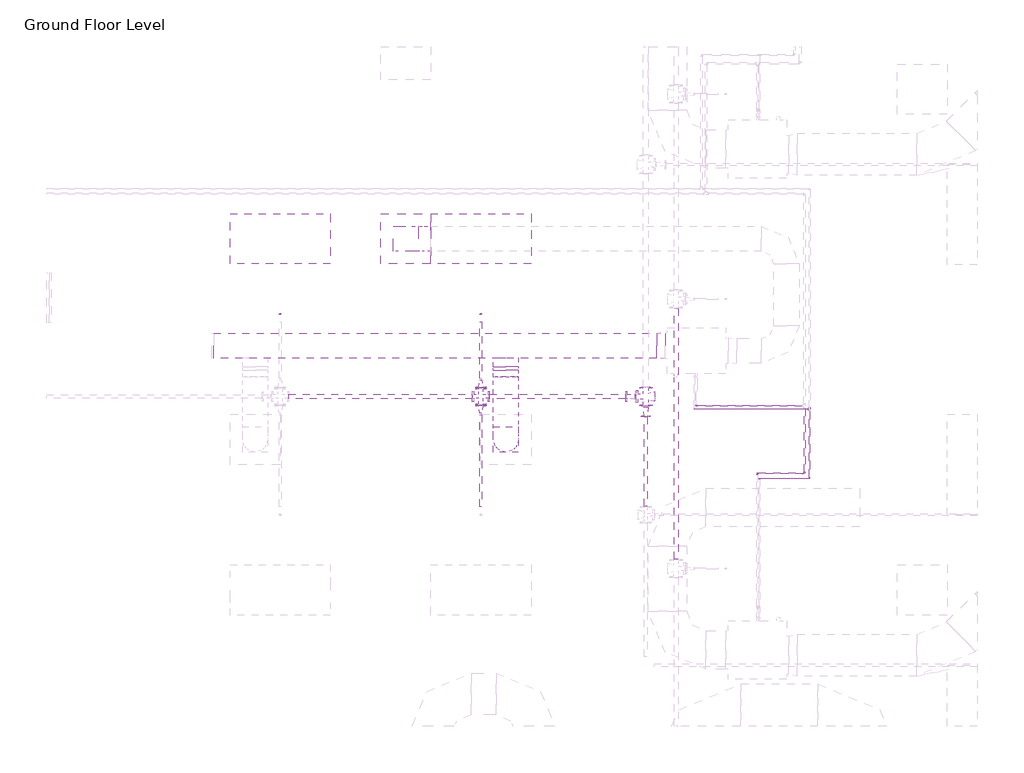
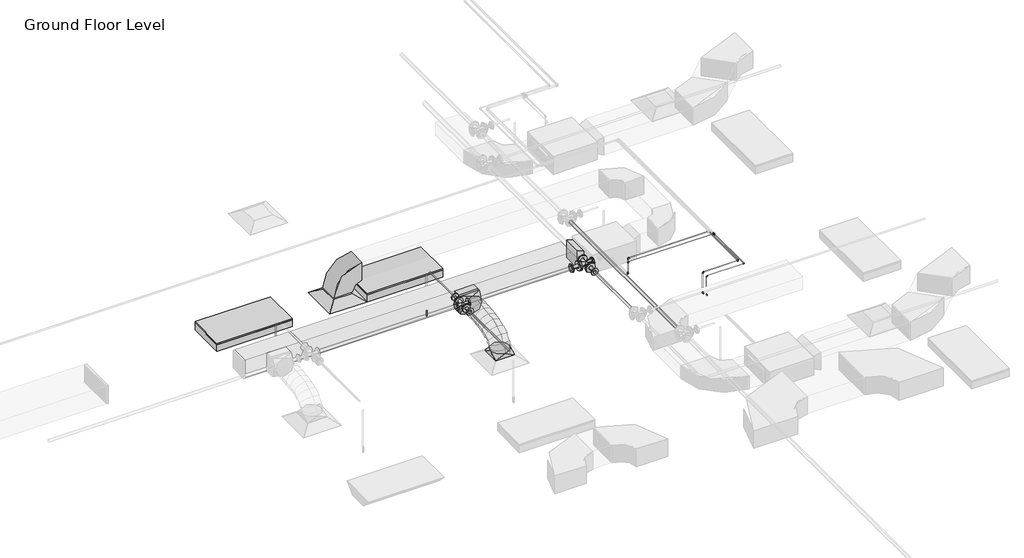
# One storey, part 35 of 74: 18 pipe fittings, 18 pipe segments, 5 duct fittings, 4 duct segments, 2 fire suppression terminals, 2 light fixtures, 1 air terminal.
"""IFC4 building model written with IfcOpenShell, lengths in millimetres."""

from ifc_helpers import new_model, si_unit, point, frame, frame_2d, origin, place, context, project, spatial, polyline, circle_curve, ellipse_curve, trimmed, segment, composite_curve, outline, extrude, transform, mapped, element, save
from ifc_brep_helpers import plane_surface, cylinder_surface, advanced_brep
from components import m_return_diffuser_600_x_600_face_300_x_300_connection_ff221211, m_rectangular_elbow_radius_1_w_618da153, m_rectangular_takeoff_standard_cb0ccb98, m_rectangular_transition_angle_45_degree_da897c11, m_rectangular_to_round_transition_angle_45_degree_641efff0, m_sprinkler_dry_pendent_hosted_15_mm_dry_pendent_9bda8e11, m_troffer_light_parabolic_rectangular1_0600x1200mm_4_lamp_86473d4a, m_cross_flanged_cs_class_150_standard_fc817054, m_elbow_generic_standard_a088f956, m_elbow_generic_standard_2a704253, m_reducer_flanged_cs_class_150_standard_3ab32b2b, m_reducer_flanged_cs_class_150_standard_a7631c35, m_reducer_flanged_cs_class_150_standard_dc68ad9d, m_tee_generic_standard_5b2ed4d4, m_tee_round_base_flanged_cs_class_150_standard_dd767e04, m_transition_generic_standard_bdcfe2c1

model = new_model("IFC4")

# Units and contexts
model_context = context("Model", 3, world=origin())
ifc_project = project(units=[si_unit("LENGTHUNIT", "METRE", prefix="MILLI")], contexts=[model_context])

# Site, building, storey
site = spatial("IfcSite", under=ifc_project)
building = spatial("IfcBuilding", under=site)
storey = spatial("IfcBuildingStorey", under=building, Name="Ground Floor Level", Elevation=900.0)

# Air terminal
placement = place(None, origin())
m_return_diffuser_600_x_600_face_300_x_300_connection_shape = m_return_diffuser_600_x_600_face_300_x_300_connection_ff221211(model_context)
element("IfcAirTerminal", 1, ObjectType="M_Return Diffuser : 600 x 600 Face 300 x 300 Connection", at=placement, inside=storey, context=model_context, shape_type="MappedRepresentation", body=[
    mapped(m_return_diffuser_600_x_600_face_300_x_300_connection_shape, transform((2762.7672395, -1064.7846466, 3650.0), x_axis=(1.0, 0.0, 0.0), y_axis=(0.0, 1.0, 0.0), z_axis=(0.0, 0.0, 1.0))),
])

# Duct fittings
m_rectangular_elbow_radius_1_w_shape = m_rectangular_elbow_radius_1_w_618da153(model_context)
element("IfcDuctFitting", 2, ObjectType="M_Rectangular Elbow - Radius : 1 W", at=placement, inside=storey, context=model_context, shape_type="MappedRepresentation", body=[
    mapped(m_rectangular_elbow_radius_1_w_shape, transform((2762.7672395, -1064.7846466, 4075.2874667), x_axis=(0.0, 0.0, 1.0), y_axis=(1.0, 0.0, 0.0), z_axis=(0.0, 1.0, 0.0))),
])
m_rectangular_takeoff_standard_shape = m_rectangular_takeoff_standard_cb0ccb98(model_context)
element("IfcDuctFitting", 3, ObjectType="M_Rectangular Takeoff : Standard", at=placement, inside=storey, context=model_context, shape_type="MappedRepresentation", body=[
    mapped(m_rectangular_takeoff_standard_shape, transform((3962.7672395, -2491.7438478, 4099.9957364), x_axis=(0.0, -1.0, 0.0), y_axis=(-1.0, 0.0, 0.0), z_axis=(0.0, 0.0, -1.0))),
])
m_rectangular_transition_angle_45_degree_shape = m_rectangular_transition_angle_45_degree_da897c11(model_context)
element("IfcDuctFitting", 4, ObjectType="M_Rectangular Transition - Angle : 45 Degree", at=placement, inside=storey, context=model_context, shape_type="MappedRepresentation", body=[
    mapped(m_rectangular_transition_angle_45_degree_shape, transform((5868.0139492, -2341.7438478, 4099.9999667), x_axis=(-1.0, 0.0, 0.0), y_axis=(0.0, -1.0, 0.0), z_axis=(0.0, 0.0, 1.0))),
])
m_rectangular_to_round_transition_angle_45_degree_shape = m_rectangular_to_round_transition_angle_45_degree_641efff0(model_context)
element("IfcDuctFitting", 5, ObjectType="M_Rectangular to Round Transition - Angle : 45 Degree", at=placement, inside=storey, context=model_context, shape_type="MappedRepresentation", body=[
    mapped(m_rectangular_to_round_transition_angle_45_degree_shape, transform((3962.7672395, -3464.7846466, 3751.6), x_axis=(0.0, 0.0, 1.0), y_axis=(-1.0, 0.0, 0.0), z_axis=(0.0, -1.0, 0.0))),
])
element("IfcDuctFitting", 6, ObjectType="M_Rectangular to Round Transition - Angle : 45 Degree", at=placement, inside=storey, context=model_context, shape_type="MappedRepresentation", body=[
    mapped(m_rectangular_to_round_transition_angle_45_degree_shape, transform((3962.7672395, -2637.4444518, 4099.9957364), x_axis=(0.0, -1.0, 0.0), y_axis=(1.0, 0.0, 0.0), z_axis=(0.0, 0.0, 1.0))),
])

# Duct segments
element("IfcDuctSegment", 7, ObjectType="Flex - Round", at=placement, inside=storey, context=model_context, shape_type="AdvancedBrep", body=[
    advanced_brep(
    [(4112.7672395, -3464.7846466, 3826.6), (3962.7672395, -3614.7846466, 3826.6), (3812.7672395, -3464.7846466, 3826.6), (3962.7672395, -3314.7846466, 3826.6), (4112.7672395, -3464.7846466, 3857.9378904), (3962.7672395, -3614.7846466, 3883.5813314), (3812.7672395, -3464.7846466, 3857.9378904), (3962.7672395, -3314.7846466, 3832.2944494), (4112.7672395, -3447.7685958, 3906.2506506), (3962.7672395, -3581.5063062, 3978.066738), (3812.7672395, -3447.7685958, 3906.2506506), (3962.7672395, -3314.0308854, 3834.4345631), (4112.7672395, -3400.5843936, 3968.711118), (3962.7672395, -3504.7895631, 4079.6211441), (3812.7672395, -3400.5843936, 3968.711118), (3962.7672395, -3296.3792241, 3857.8010918), (4112.7672395, -3329.0279651, 4016.0693364), (3962.7672395, -3397.9608708, 4150.3236185), (3812.7672395, -3329.0279651, 4016.0693364), (3962.7672395, -3260.0950595, 3881.8150544), (4112.7672395, -3238.8952355, 4050.4132402), (3962.7672395, -3282.4547417, 4194.3357259), (3812.7672395, -3238.8952355, 4050.4132402), (3962.7672395, -3195.3357294, 3906.4907544), (4112.7672395, -3135.98213, 4073.8307635), (3962.7672395, -3162.5418624, 4221.6214893), (3812.7672395, -3135.98213, 4073.8307635), (3962.7672395, -3109.4223976, 3926.0400376), (4112.7672395, -3026.0845737, 4088.4098405), (3962.7672395, -3041.2344403, 4237.7142061), (3812.7672395, -3026.0845737, 4088.4098405), (3962.7672395, -3010.934707, 3939.1054749), (4112.7672395, -2914.9984918, 4096.2384055), (3962.7672395, -2922.5030142, 4246.0815611), (3812.7672395, -2914.9984918, 4096.2384055), (3962.7672395, -2907.4939693, 3946.3952499), (4112.7672395, -2808.5198094, 4099.4043927), (3962.7672395, -2811.210829, 4249.3906708), (3812.7672395, -2808.5198094, 4099.4043927), (3962.7672395, -2805.8287898, 3949.4181147), (4112.7672395, -2712.4444518, 4099.9957364), (3962.7672395, -2711.5212194, 3949.9985777), (3812.7672395, -2712.4444518, 4099.9957364), (3962.7672395, -2713.3676841, 4249.9928952)],
    [
        (0, 1, circle_curve(frame((3962.7672395, -3464.7846466, 3826.6), z_axis=(0.0, 0.0, -1.0), x_axis=(1.0, 0.0, 0.0)), 150.0)),
        (1, 2, circle_curve(frame((3962.7672395, -3464.7846466, 3826.6), z_axis=(0.0, 0.0, -1.0), x_axis=(1.0, 0.0, 0.0)), 150.0)),
        (2, 3, circle_curve(frame((3962.7672395, -3464.7846466, 3826.6), z_axis=(0.0, 0.0, -1.0), x_axis=(1.0, 0.0, 0.0)), 150.0)),
        (3, 0, circle_curve(frame((3962.7672395, -3464.7846466, 3826.6), z_axis=(0.0, 0.0, -1.0), x_axis=(1.0, 0.0, 0.0)), 150.0)),
        (0, 4),
        (4, 5, ellipse_curve(frame((3962.7672395, -3464.7846466, 3857.9378904), z_axis=(0.0, -0.1685115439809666, -0.9856996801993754), x_axis=(0.0, 0.9856996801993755, -0.1685115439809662)), 152.1761679, 150.0)),
        (5, 1),
        (5, 6, ellipse_curve(frame((3962.7672395, -3464.7846466, 3857.9378904), z_axis=(0.0, -0.1685115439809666, -0.9856996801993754), x_axis=(0.0, 0.9856996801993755, -0.1685115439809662)), 152.1761679, 150.0)),
        (6, 2),
        (6, 7, ellipse_curve(frame((3962.7672395, -3464.7846466, 3857.9378904), z_axis=(0.0, -0.1685115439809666, -0.9856996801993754), x_axis=(0.0, 0.9856996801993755, -0.1685115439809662)), 152.1761679, 150.0)),
        (7, 3),
        (7, 4, ellipse_curve(frame((3962.7672395, -3464.7846466, 3857.9378904), z_axis=(0.0, -0.1685115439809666, -0.9856996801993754), x_axis=(0.0, 0.9856996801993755, -0.1685115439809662)), 152.1761679, 150.0)),
        (4, 8),
        (8, 9, ellipse_curve(frame((3962.7672395, -3447.7685958, 3906.2506506), z_axis=(0.0, -0.4730958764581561, -0.8810109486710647), x_axis=(0.0, 0.8810109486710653, -0.4730958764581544)), 151.800282, 150.0)),
        (9, 5),
        (9, 10, ellipse_curve(frame((3962.7672395, -3447.7685958, 3906.2506506), z_axis=(0.0, -0.4730958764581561, -0.8810109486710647), x_axis=(0.0, 0.8810109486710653, -0.4730958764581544)), 151.800282, 150.0)),
        (10, 6),
        (10, 11, ellipse_curve(frame((3962.7672395, -3447.7685958, 3906.2506506), z_axis=(0.0, -0.4730958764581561, -0.8810109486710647), x_axis=(0.0, 0.8810109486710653, -0.4730958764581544)), 151.800282, 150.0)),
        (11, 7),
        (11, 8, ellipse_curve(frame((3962.7672395, -3447.7685958, 3906.2506506), z_axis=(0.0, -0.4730958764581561, -0.8810109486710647), x_axis=(0.0, 0.8810109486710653, -0.4730958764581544)), 151.800282, 150.0)),
        (8, 12),
        (12, 13, ellipse_curve(frame((3962.7672395, -3400.5843936, 3968.711118), z_axis=(0.0, -0.7287924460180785, -0.6847346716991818), x_axis=(0.0, 0.6847346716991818, -0.7287924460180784)), 152.1832818, 150.0)),
        (13, 9),
        (13, 14, ellipse_curve(frame((3962.7672395, -3400.5843936, 3968.711118), z_axis=(0.0, -0.7287924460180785, -0.6847346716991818), x_axis=(0.0, 0.6847346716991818, -0.7287924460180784)), 152.1832818, 150.0)),
        (14, 10),
        (14, 15, ellipse_curve(frame((3962.7672395, -3400.5843936, 3968.711118), z_axis=(0.0, -0.7287924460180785, -0.6847346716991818), x_axis=(0.0, 0.6847346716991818, -0.7287924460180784)), 152.1832818, 150.0)),
        (15, 11),
        (15, 12, ellipse_curve(frame((3962.7672395, -3400.5843936, 3968.711118), z_axis=(0.0, -0.7287924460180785, -0.6847346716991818), x_axis=(0.0, 0.6847346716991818, -0.7287924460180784)), 152.1832818, 150.0)),
        (12, 16),
        (16, 17, ellipse_curve(frame((3962.7672395, -3329.0279651, 4016.0693364), z_axis=(0.0, -0.8895898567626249, -0.45676020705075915), x_axis=(0.0, 0.45676020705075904, -0.889589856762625)), 150.9170558, 150.0)),
        (17, 13),
        (17, 18, ellipse_curve(frame((3962.7672395, -3329.0279651, 4016.0693364), z_axis=(0.0, -0.8895898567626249, -0.45676020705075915), x_axis=(0.0, 0.45676020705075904, -0.889589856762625)), 150.9170558, 150.0)),
        (18, 14),
        (18, 19, ellipse_curve(frame((3962.7672395, -3329.0279651, 4016.0693364), z_axis=(0.0, -0.8895898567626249, -0.45676020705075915), x_axis=(0.0, 0.45676020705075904, -0.889589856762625)), 150.9170558, 150.0)),
        (19, 15),
        (19, 16, ellipse_curve(frame((3962.7672395, -3329.0279651, 4016.0693364), z_axis=(0.0, -0.8895898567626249, -0.45676020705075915), x_axis=(0.0, 0.45676020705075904, -0.889589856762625)), 150.9170558, 150.0)),
        (16, 20),
        (20, 21, ellipse_curve(frame((3962.7672395, -3238.8952355, 4050.4132402), z_axis=(0.0, -0.9571228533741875, -0.2896823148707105), x_axis=(0.0, 0.28968231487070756, -0.9571228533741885)), 150.3699188, 150.0)),
        (21, 17),
        (21, 22, ellipse_curve(frame((3962.7672395, -3238.8952355, 4050.4132402), z_axis=(0.0, -0.9571228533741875, -0.2896823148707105), x_axis=(0.0, 0.28968231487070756, -0.9571228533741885)), 150.3699188, 150.0)),
        (22, 18),
        (22, 23, ellipse_curve(frame((3962.7672395, -3238.8952355, 4050.4132402), z_axis=(0.0, -0.9571228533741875, -0.2896823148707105), x_axis=(0.0, 0.28968231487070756, -0.9571228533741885)), 150.3699188, 150.0)),
        (23, 19),
        (23, 20, ellipse_curve(frame((3962.7672395, -3238.8952355, 4050.4132402), z_axis=(0.0, -0.9571228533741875, -0.2896823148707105), x_axis=(0.0, 0.28968231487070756, -0.9571228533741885)), 150.3699188, 150.0)),
        (20, 24),
        (24, 25, ellipse_curve(frame((3962.7672395, -3135.98213, 4073.8307635), z_axis=(0.0, -0.984232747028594, -0.1768782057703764), x_axis=(0.0, 0.17687820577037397, -0.9842327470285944)), 150.1583099, 150.0)),
        (25, 21),
        (25, 26, ellipse_curve(frame((3962.7672395, -3135.98213, 4073.8307635), z_axis=(0.0, -0.984232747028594, -0.1768782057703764), x_axis=(0.0, 0.17687820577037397, -0.9842327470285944)), 150.1583099, 150.0)),
        (26, 22),
        (26, 27, ellipse_curve(frame((3962.7672395, -3135.98213, 4073.8307635), z_axis=(0.0, -0.984232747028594, -0.1768782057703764), x_axis=(0.0, 0.17687820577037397, -0.9842327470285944)), 150.1583099, 150.0)),
        (27, 23),
        (27, 24, ellipse_curve(frame((3962.7672395, -3135.98213, 4073.8307635), z_axis=(0.0, -0.984232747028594, -0.1768782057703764), x_axis=(0.0, 0.17687820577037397, -0.9842327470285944)), 150.1583099, 150.0)),
        (24, 28),
        (28, 29, ellipse_curve(frame((3962.7672395, -3026.0845737, 4088.4098405), z_axis=(0.0, -0.9948913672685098, -0.10095131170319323), x_axis=(0.0, 0.10095131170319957, -0.994891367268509)), 150.0710233, 150.0)),
        (29, 25),
        (29, 30, ellipse_curve(frame((3962.7672395, -3026.0845737, 4088.4098405), z_axis=(0.0, -0.9948913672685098, -0.10095131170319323), x_axis=(0.0, 0.10095131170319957, -0.994891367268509)), 150.0710233, 150.0)),
        (30, 26),
        (30, 31, ellipse_curve(frame((3962.7672395, -3026.0845737, 4088.4098405), z_axis=(0.0, -0.9948913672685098, -0.10095131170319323), x_axis=(0.0, 0.10095131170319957, -0.994891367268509)), 150.0710233, 150.0)),
        (31, 27),
        (31, 28, ellipse_curve(frame((3962.7672395, -3026.0845737, 4088.4098405), z_axis=(0.0, -0.9948913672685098, -0.10095131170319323), x_axis=(0.0, 0.10095131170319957, -0.994891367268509)), 150.0710233, 150.0)),
        (28, 32),
        (32, 33, ellipse_curve(frame((3962.7672395, -2914.9984918, 4096.2384055), z_axis=(0.0, -0.9987482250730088, -0.050019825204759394), x_axis=(0.0, 0.05001982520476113, -0.9987482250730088)), 150.0309606, 150.0)),
        (33, 29),
        (33, 34, ellipse_curve(frame((3962.7672395, -2914.9984918, 4096.2384055), z_axis=(0.0, -0.9987482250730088, -0.050019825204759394), x_axis=(0.0, 0.05001982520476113, -0.9987482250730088)), 150.0309606, 150.0)),
        (34, 30),
        (34, 35, ellipse_curve(frame((3962.7672395, -2914.9984918, 4096.2384055), z_axis=(0.0, -0.9987482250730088, -0.050019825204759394), x_axis=(0.0, 0.05001982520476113, -0.9987482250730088)), 150.0309606, 150.0)),
        (35, 31),
        (35, 32, ellipse_curve(frame((3962.7672395, -2914.9984918, 4096.2384055), z_axis=(0.0, -0.9987482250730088, -0.050019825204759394), x_axis=(0.0, 0.05001982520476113, -0.9987482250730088)), 150.0309606, 150.0)),
        (32, 36),
        (36, 37, ellipse_curve(frame((3962.7672395, -2808.5198094, 4099.4043927), z_axis=(0.0, -0.9998390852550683, -0.01793888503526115), x_axis=(0.0, 0.017938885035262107, -0.9998390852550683)), 150.0104169, 150.0)),
        (37, 33),
        (37, 38, ellipse_curve(frame((3962.7672395, -2808.5198094, 4099.4043927), z_axis=(0.0, -0.9998390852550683, -0.01793888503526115), x_axis=(0.0, 0.017938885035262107, -0.9998390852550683)), 150.0104169, 150.0)),
        (38, 34),
        (38, 39, ellipse_curve(frame((3962.7672395, -2808.5198094, 4099.4043927), z_axis=(0.0, -0.9998390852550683, -0.01793888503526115), x_axis=(0.0, 0.017938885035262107, -0.9998390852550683)), 150.0104169, 150.0)),
        (39, 35),
        (39, 36, ellipse_curve(frame((3962.7672395, -2808.5198094, 4099.4043927), z_axis=(0.0, -0.9998390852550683, -0.01793888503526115), x_axis=(0.0, 0.017938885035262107, -0.9998390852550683)), 150.0104169, 150.0)),
        (40, 41, circle_curve(frame((3962.7672395, -2712.4444518, 4099.9957364), z_axis=(0.0, 0.9999810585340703, 0.006154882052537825), x_axis=(1.0, 0.0, 0.0)), 150.0)),
        (41, 42, circle_curve(frame((3962.7672395, -2712.4444518, 4099.9957364), z_axis=(0.0, 0.9999810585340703, 0.006154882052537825), x_axis=(1.0, 0.0, 0.0)), 150.0)),
        (42, 43, circle_curve(frame((3962.7672395, -2712.4444518, 4099.9957364), z_axis=(0.0, 0.9999810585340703, 0.006154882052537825), x_axis=(1.0, 0.0, 0.0)), 150.0)),
        (43, 40, circle_curve(frame((3962.7672395, -2712.4444518, 4099.9957364), z_axis=(0.0, 0.9999810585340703, 0.006154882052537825), x_axis=(1.0, 0.0, 0.0)), 150.0)),
        (36, 40),
        (43, 37),
        (42, 38),
        (41, 39),
    ],
    [
        plane_surface(frame((3962.7672395, -3614.7846466, 3826.6), z_axis=(0.0, 0.0, -1.0), x_axis=(1.0, 0.0, 0.0))),
        cylinder_surface(frame((3962.7672395, -3464.7846466, 3826.6), z_axis=(0.0, 0.0, -1.0), x_axis=(1.0, 0.0, 0.0)), 150.0),
        cylinder_surface(frame((3962.7672395, -3464.7846466, 3857.9378904), z_axis=(0.0, -0.3322035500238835, -0.9432077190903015), x_axis=(1.0, 0.0, 0.0)), 150.0),
        cylinder_surface(frame((3962.7672395, -3447.7685958, 3906.2506506), z_axis=(0.0, -0.6027668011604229, -0.7979174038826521), x_axis=(1.0, 0.0, 0.0)), 150.0),
        cylinder_surface(frame((3962.7672395, -3400.5843936, 3968.711118), z_axis=(0.0, -0.8339069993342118, -0.5519049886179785), x_axis=(1.0, 0.0, 0.0)), 150.0),
        cylinder_surface(frame((3962.7672395, -3329.0279651, 4016.0693364), z_axis=(0.0, -0.9344614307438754, -0.35606436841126), x_axis=(1.0, 0.0, 0.0)), 150.0),
        cylinder_surface(frame((3962.7672395, -3238.8952355, 4050.4132402), z_axis=(0.0, -0.9750751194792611, -0.22187499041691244), x_axis=(1.0, 0.0, 0.0)), 150.0),
        cylinder_surface(frame((3962.7672395, -3135.98213, 4073.8307635), z_axis=(0.0, -0.9913150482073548, -0.1315084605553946), x_axis=(1.0, 0.0, 0.0)), 150.0),
        cylinder_surface(frame((3962.7672395, -3026.0845737, 4088.4098405), z_axis=(0.0, -0.9975259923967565, -0.07029860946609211), x_axis=(1.0, 0.0, 0.0)), 150.0),
        cylinder_surface(frame((3962.7672395, -2914.9984918, 4096.2384055), z_axis=(0.0, -0.9995582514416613, -0.029720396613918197), x_axis=(1.0, 0.0, 0.0)), 150.0),
        plane_surface(frame((3962.7672395, -2713.3676841, 4249.9928952), z_axis=(0.0, 0.9999810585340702, 0.006154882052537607), x_axis=(1.0, 0.0, 0.0))),
        cylinder_surface(frame((3962.7672395, -2808.5198094, 4099.4043927), z_axis=(0.0, -0.9999810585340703, -0.006154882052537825), x_axis=(1.0, 0.0, 0.0)), 150.0),
    ],
    [
        (0, [[1, 2, 3, 4]]),
        (1, [[-1, 5, 6, 7]]),
        (1, [[-2, -7, 8, 9]]),
        (1, [[-3, -9, 10, 11]]),
        (1, [[-4, -11, 12, -5]]),
        (2, [[-6, 13, 14, 15]]),
        (2, [[-8, -15, 16, 17]]),
        (2, [[-10, -17, 18, 19]]),
        (2, [[-12, -19, 20, -13]]),
        (3, [[-14, 21, 22, 23]]),
        (3, [[-16, -23, 24, 25]]),
        (3, [[-18, -25, 26, 27]]),
        (3, [[-20, -27, 28, -21]]),
        (4, [[-22, 29, 30, 31]]),
        (4, [[-24, -31, 32, 33]]),
        (4, [[-26, -33, 34, 35]]),
        (4, [[-28, -35, 36, -29]]),
        (5, [[-30, 37, 38, 39]]),
        (5, [[-32, -39, 40, 41]]),
        (5, [[-34, -41, 42, 43]]),
        (5, [[-36, -43, 44, -37]]),
        (6, [[-38, 45, 46, 47]]),
        (6, [[-40, -47, 48, 49]]),
        (6, [[-42, -49, 50, 51]]),
        (6, [[-44, -51, 52, -45]]),
        (7, [[-46, 53, 54, 55]]),
        (7, [[-48, -55, 56, 57]]),
        (7, [[-50, -57, 58, 59]]),
        (7, [[-52, -59, 60, -53]]),
        (8, [[-54, 61, 62, 63]]),
        (8, [[-56, -63, 64, 65]]),
        (8, [[-58, -65, 66, 67]]),
        (8, [[-60, -67, 68, -61]]),
        (9, [[-62, 69, 70, 71]]),
        (9, [[-64, -71, 72, 73]]),
        (9, [[-66, -73, 74, 75]]),
        (9, [[-68, -75, 76, -69]]),
        (10, [[77, 78, 79, 80]]),
        (11, [[-70, 81, -80, 82]]),
        (11, [[-72, -82, -79, 83]]),
        (11, [[-74, -83, -78, 84]]),
        (11, [[-76, -84, -77, -81]]),
    ],
),
])
element("IfcDuctSegment", 8, ObjectType="Radius Elbows / Taps", at=placement, inside=storey, context=model_context, shape_type="SweptSolid", body=[
    extrude(outline(polyline([(2912.7672395, -914.7846466), (2912.7672395, -1214.7846466), (2612.7672395, -1214.7846466), (2612.7672395, -914.7846466), (2912.7672395, -914.7846466)])), frame((0.0, 0.0, 3751.6), z_axis=(0.0, 0.0, 1.0), x_axis=(1.0, 0.0, 0.0)), (0.0, 0.0, 1.0), 23.6874667),
])
element("IfcDuctSegment", 9, ObjectType="Radius Elbows / Taps", at=placement, inside=storey, context=model_context, shape_type="SweptSolid", body=[
    extrude(outline(polyline([(0.0, -300.0), (0.0, 0.0), (5296.5207712, 0.0), (5296.5207712, -300.0), (0.0, -300.0)])), frame((5764.5350754, -2491.7438478, 3950.0), z_axis=(-2.366321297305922e-06, 0.0, 0.9999999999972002), x_axis=(-0.9999999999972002, 0.0, -2.366321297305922e-06)), (0.0, 0.0, 1.0), 300.0),
])
element("IfcDuctSegment", 10, ObjectType="Radius Elbows / Taps", at=placement, inside=storey, context=model_context, shape_type="SweptSolid", body=[
    extrude(outline(polyline([(3812.7672395, -2593.3438478), (4112.7672395, -2593.3438478), (4112.7672395, -2637.4444518), (3812.7672395, -2637.4444518), (3812.7672395, -2593.3438478)])), frame((0.0, 0.0, 3949.9957364), z_axis=(0.0, 0.0, 1.0), x_axis=(1.0, 0.0, 0.0)), (0.0, 0.0, 1.0), 300.0),
])

# Fire suppression terminals
m_sprinkler_dry_pendent_hosted_15_mm_dry_pendent_shape = m_sprinkler_dry_pendent_hosted_15_mm_dry_pendent_9bda8e11(model_context)
element("IfcFireSuppressionTerminal", 11, ObjectType="M_Sprinkler - Dry - Pendent - Hosted : 15 mm Dry Pendent", at=placement, inside=storey, context=model_context, shape_type="MappedRepresentation", body=[
    mapped(m_sprinkler_dry_pendent_hosted_15_mm_dry_pendent_shape, transform((1262.7672395, -1964.7846466, 3650.0), x_axis=(1.0, 0.0, 0.0), y_axis=(0.0, -1.0, 0.0), z_axis=(0.0, 0.0, -1.0))),
])
element("IfcFireSuppressionTerminal", 12, ObjectType="M_Sprinkler - Dry - Pendent - Hosted : 15 mm Dry Pendent", at=placement, inside=storey, context=model_context, shape_type="MappedRepresentation", body=[
    mapped(m_sprinkler_dry_pendent_hosted_15_mm_dry_pendent_shape, transform((3662.7672395, -1964.7846466, 3650.0), x_axis=(1.0, 0.0, 0.0), y_axis=(0.0, -1.0, 0.0), z_axis=(0.0, 0.0, -1.0))),
])

# Light fixtures
m_troffer_light_parabolic_rectangular1_0600x1200mm_4_lamp_shape = m_troffer_light_parabolic_rectangular1_0600x1200mm_4_lamp_86473d4a(model_context)
element("IfcLightFixture", 13, ObjectType="M_Troffer Light - Parabolic Rectangular1 : 0600x1200mm(4 Lamp) - 277V 2", at=placement, inside=storey, context=model_context, shape_type="MappedRepresentation", body=[
    mapped(m_troffer_light_parabolic_rectangular1_0600x1200mm_4_lamp_shape, transform((3681.4707411, -1005.3187145, 3650.0), x_axis=(1.0, 0.0, 0.0), y_axis=(0.0, 1.0, 0.0), z_axis=(0.0, 0.0, 1.0))),
])
element("IfcLightFixture", 14, ObjectType="M_Troffer Light - Parabolic Rectangular1 : 0600x1200mm(4 Lamp) - 277V 2", at=placement, inside=storey, context=model_context, shape_type="MappedRepresentation", body=[
    mapped(m_troffer_light_parabolic_rectangular1_0600x1200mm_4_lamp_shape, transform((1281.4707411, -1005.3187145, 3650.0), x_axis=(1.0, 0.0, 0.0), y_axis=(0.0, 1.0, 0.0), z_axis=(0.0, 0.0, 1.0))),
])

# Pipe fittings
m_cross_flanged_cs_class_150_standard_shape = m_cross_flanged_cs_class_150_standard_fc817054(model_context)
element("IfcPipeFitting", 15, ObjectType="M_Cross - Flanged - CS - Class 150 : Standard", at=placement, inside=storey, context=model_context, shape_type="MappedRepresentation", body=[
    mapped(m_cross_flanged_cs_class_150_standard_shape, transform((3662.7672395, -2950.3491993, 4360.0), x_axis=(1.0, 0.0, 0.0), y_axis=(0.0, -1.0, 0.0), z_axis=(0.0, 0.0, -1.0))),
])
m_elbow_generic_standard_shape = m_elbow_generic_standard_a088f956(model_context)
element("IfcPipeFitting", 16, ObjectType="M_Elbow - Generic : Standard", at=placement, inside=storey, context=model_context, shape_type="MappedRepresentation", body=[
    mapped(m_elbow_generic_standard_shape, transform((7534.4307053, -3869.9099051, 4300.0), x_axis=(1.0, 0.0, 0.0), y_axis=(0.0, 1.0, 0.0), z_axis=(0.0, 0.0, 1.0))),
])
element("IfcPipeFitting", 17, ObjectType="M_Elbow - Generic : Standard", at=placement, inside=storey, context=model_context, shape_type="MappedRepresentation", body=[
    mapped(m_elbow_generic_standard_shape, transform((6968.8139492, -3869.9099051, 4300.0), x_axis=(-1.0, 0.0, 0.0), y_axis=(0.0, 0.0, -1.0), z_axis=(0.0, -1.0, 0.0))),
])
element("IfcPipeFitting", 18, ObjectType="M_Elbow - Generic : Standard", at=placement, inside=storey, context=model_context, shape_type="MappedRepresentation", body=[
    mapped(m_elbow_generic_standard_shape, transform((6243.4139492, -3060.5124002, 4034.0874667), x_axis=(0.0, -1.0, 0.0), y_axis=(0.0, 0.0, 1.0), z_axis=(-1.0, 0.0, 0.0))),
])
element("IfcPipeFitting", 19, ObjectType="M_Elbow - Generic : Standard", at=placement, inside=storey, context=model_context, shape_type="MappedRepresentation", body=[
    mapped(m_elbow_generic_standard_shape, transform((6243.4139492, -3060.5124002, 4300.0), x_axis=(0.0, 0.0, 1.0), y_axis=(1.0, 0.0, 0.0), z_axis=(0.0, 1.0, 0.0))),
])
element("IfcPipeFitting", 20, ObjectType="M_Elbow - Generic : Standard", at=placement, inside=storey, context=model_context, shape_type="MappedRepresentation", body=[
    mapped(m_elbow_generic_standard_shape, transform((6968.8139492, -3869.9099051, 3950.0), x_axis=(0.0, 0.0, -1.0), y_axis=(0.0, -1.0, 0.0), z_axis=(-1.0, 0.0, 0.0))),
])
m_elbow_generic_standard_2_shape = m_elbow_generic_standard_2a704253(model_context)
element("IfcPipeFitting", 21, ObjectType="M_Elbow - Generic : Standard", at=placement, inside=storey, context=model_context, shape_type="MappedRepresentation", body=[
    mapped(m_elbow_generic_standard_2_shape, transform((7594.4307053, -3931.9012458, 4265.0), x_axis=(1.0, 0.0, 0.0), y_axis=(0.0, 1.0, 0.0), z_axis=(0.0, 0.0, 1.0))),
])
element("IfcPipeFitting", 22, ObjectType="M_Elbow - Generic : Standard", at=placement, inside=storey, context=model_context, shape_type="MappedRepresentation", body=[
    mapped(m_elbow_generic_standard_2_shape, transform((6993.8139492, -3931.9012458, 4265.0), x_axis=(-1.0, 0.0, 0.0), y_axis=(0.0, 0.0, -1.0), z_axis=(0.0, -1.0, 0.0))),
])
element("IfcPipeFitting", 23, ObjectType="M_Elbow - Generic : Standard", at=placement, inside=storey, context=model_context, shape_type="MappedRepresentation", body=[
    mapped(m_elbow_generic_standard_2_shape, transform((6218.4139492, -3100.3969173, 4084.8874667), x_axis=(0.0, -1.0, 0.0), y_axis=(0.0, 0.0, 1.0), z_axis=(-1.0, 0.0, 0.0))),
])
element("IfcPipeFitting", 24, ObjectType="M_Elbow - Generic : Standard", at=placement, inside=storey, context=model_context, shape_type="MappedRepresentation", body=[
    mapped(m_elbow_generic_standard_2_shape, transform((6218.4139492, -3100.3969173, 4265.0), x_axis=(0.0, 0.0, 1.0), y_axis=(1.0, 0.0, 0.0), z_axis=(0.0, 1.0, 0.0))),
])
element("IfcPipeFitting", 25, ObjectType="M_Elbow - Generic : Standard", at=placement, inside=storey, context=model_context, shape_type="MappedRepresentation", body=[
    mapped(m_elbow_generic_standard_2_shape, transform((6993.8139492, -3931.9012458, 3950.0), x_axis=(0.0, 0.0, -1.0), y_axis=(0.0, -1.0, 0.0), z_axis=(-1.0, 0.0, 0.0))),
])
m_reducer_flanged_cs_class_150_standard_shape = m_reducer_flanged_cs_class_150_standard_3ab32b2b(model_context)
element("IfcPipeFitting", 26, ObjectType="M_Reducer - Flanged - CS - Class 150 : Standard", at=placement, inside=storey, context=model_context, shape_type="MappedRepresentation", body=[
    mapped(m_reducer_flanged_cs_class_150_standard_shape, transform((5521.869498, -2950.3491993, 4360.0), x_axis=(-1.0, 0.0, 0.0), y_axis=(0.0, -1.0, 0.0), z_axis=(0.0, 0.0, 1.0))),
])
m_reducer_flanged_cs_class_150_standard_2_shape = m_reducer_flanged_cs_class_150_standard_a7631c35(model_context)
element("IfcPipeFitting", 27, ObjectType="M_Reducer - Flanged - CS - Class 150 : Standard", at=placement, inside=storey, context=model_context, shape_type="MappedRepresentation", body=[
    mapped(m_reducer_flanged_cs_class_150_standard_2_shape, transform((5635.869498, -3064.3491993, 4360.0), x_axis=(0.0, -1.0, 0.0), y_axis=(1.0, 0.0, 0.0), z_axis=(0.0, 0.0, 1.0))),
])
m_reducer_flanged_cs_class_150_standard_3_shape = m_reducer_flanged_cs_class_150_standard_dc68ad9d(model_context)
element("IfcPipeFitting", 28, ObjectType="M_Reducer - Flanged - CS - Class 150 : Standard", at=placement, inside=storey, context=model_context, shape_type="MappedRepresentation", body=[
    mapped(m_reducer_flanged_cs_class_150_standard_3_shape, transform((3662.7672395, -2848.3491993, 4360.0), x_axis=(0.0, 1.0, 0.0), y_axis=(-1.0, 0.0, 0.0), z_axis=(0.0, 0.0, 1.0))),
])
element("IfcPipeFitting", 29, ObjectType="M_Reducer - Flanged - CS - Class 150 : Standard", at=placement, inside=storey, context=model_context, shape_type="MappedRepresentation", body=[
    mapped(m_reducer_flanged_cs_class_150_standard_3_shape, transform((3662.7672395, -3052.3491993, 4360.0), x_axis=(0.0, -1.0, 0.0), y_axis=(1.0, 0.0, 0.0), z_axis=(0.0, 0.0, 1.0))),
])
m_tee_generic_standard_shape = m_tee_generic_standard_5b2ed4d4(model_context)
element("IfcPipeFitting", 30, ObjectType="M_Tee - Generic : Standard", at=placement, inside=storey, context=model_context, shape_type="MappedRepresentation", body=[
    mapped(m_tee_generic_standard_shape, transform((7594.4307053, -3100.3969173, 4265.0), x_axis=(0.0, 1.0, 0.0), y_axis=(1.0, 0.0, 0.0), z_axis=(0.0, 0.0, -1.0))),
])
m_tee_round_base_flanged_cs_class_150_standard_shape = m_tee_round_base_flanged_cs_class_150_standard_dd767e04(model_context)
element("IfcPipeFitting", 31, ObjectType="M_Tee Round Base - Flanged - CS - Class 150 : Standard", at=placement, inside=storey, context=model_context, shape_type="MappedRepresentation", body=[
    mapped(m_tee_round_base_flanged_cs_class_150_standard_shape, transform((5635.869498, -2950.3491993, 4360.0), x_axis=(0.0, 1.0, 0.0), y_axis=(1.0, 0.0, 0.0), z_axis=(0.0, 0.0, -1.0))),
])
m_transition_generic_standard_shape = m_transition_generic_standard_bdcfe2c1(model_context)
element("IfcPipeFitting", 32, ObjectType="M_Transition - Generic : Standard", at=placement, inside=storey, context=model_context, shape_type="MappedRepresentation", body=[
    mapped(m_transition_generic_standard_shape, transform((7573.7932053, -3100.3969173, 4265.0), x_axis=(-1.0, 0.0, 0.0), y_axis=(0.0, -1.0, 0.0), z_axis=(0.0, 0.0, 1.0))),
])

# Pipe segments
element("IfcPipeSegment", 33, ObjectType="Copper", at=placement, inside=storey, context=model_context, shape_type="SweptSolid", body=[
    extrude(outline(composite_curve([segment(trimmed(circle_curve(frame_2d((-3931.9012458, 4265.0)), 3.35), [point((-3928.5512458, 4265.0))], [point((-3931.9012458, 4261.65))], False, "CARTESIAN"), True, "CONTINUOUS"), segment(trimmed(circle_curve(frame_2d((-3931.9012458, 4265.0)), 3.35), [point((-3931.9012458, 4261.65))], [point((-3935.2512458, 4265.0))], False, "CARTESIAN"), True, "CONTINUOUS"), segment(trimmed(circle_curve(frame_2d((-3931.9012458, 4265.0)), 3.35), [point((-3935.2512458, 4265.0))], [point((-3931.9012458, 4268.35))], False, "CARTESIAN"), True, "CONTINUOUS"), segment(trimmed(circle_curve(frame_2d((-3931.9012458, 4265.0)), 3.35), [point((-3931.9012458, 4268.35))], [point((-3928.5512458, 4265.0))], False, "CARTESIAN"), True, "CONTINUOUS")], self_intersect=False)), frame((7004.9514492, 0.0, 0.0), z_axis=(1.0, 0.0, 0.0), x_axis=(0.0, 1.0, 0.0)), (0.0, 0.0, 1.0), 578.341756),
])
element("IfcPipeSegment", 34, ObjectType="Copper", at=placement, inside=storey, context=model_context, shape_type="SweptSolid", body=[
    extrude(outline(composite_curve([segment(trimmed(circle_curve(frame_2d((-3869.9099051, 4300.0)), 6.5), [point((-3863.4099051, 4300.0))], [point((-3869.9099051, 4293.5))], False, "CARTESIAN"), True, "CONTINUOUS"), segment(trimmed(circle_curve(frame_2d((-3869.9099051, 4300.0)), 6.5), [point((-3869.9099051, 4293.5))], [point((-3876.4099051, 4300.0))], False, "CARTESIAN"), True, "CONTINUOUS"), segment(trimmed(circle_curve(frame_2d((-3869.9099051, 4300.0)), 6.5), [point((-3876.4099051, 4300.0))], [point((-3869.9099051, 4306.5))], False, "CARTESIAN"), True, "CONTINUOUS"), segment(trimmed(circle_curve(frame_2d((-3869.9099051, 4300.0)), 6.5), [point((-3869.9099051, 4306.5))], [point((-3863.4099051, 4300.0))], False, "CARTESIAN"), True, "CONTINUOUS")], self_intersect=False)), frame((6983.1014492, 0.0, 0.0), z_axis=(1.0, 0.0, 0.0), x_axis=(0.0, 1.0, 0.0)), (0.0, 0.0, 1.0), 537.041756),
])
element("IfcPipeSegment", 35, ObjectType="Copper", at=placement, inside=storey, context=model_context, shape_type="SweptSolid", body=[
    extrude(outline(composite_curve([segment(trimmed(circle_curve(frame_2d((6993.8139492, -3931.9012458)), 3.35), [point((6997.1639492, -3931.9012458))], [point((6993.8139492, -3935.2512458))], False, "CARTESIAN"), True, "CONTINUOUS"), segment(trimmed(circle_curve(frame_2d((6993.8139492, -3931.9012458)), 3.35), [point((6993.8139492, -3935.2512458))], [point((6990.4639492, -3931.9012458))], False, "CARTESIAN"), True, "CONTINUOUS"), segment(trimmed(circle_curve(frame_2d((6993.8139492, -3931.9012458)), 3.35), [point((6990.4639492, -3931.9012458))], [point((6993.8139492, -3928.5512458))], False, "CARTESIAN"), True, "CONTINUOUS"), segment(trimmed(circle_curve(frame_2d((6993.8139492, -3931.9012458)), 3.35), [point((6993.8139492, -3928.5512458))], [point((6997.1639492, -3931.9012458))], False, "CARTESIAN"), True, "CONTINUOUS")], self_intersect=False)), frame((0.0, 0.0, 3961.1375), z_axis=(0.0, 0.0, 1.0), x_axis=(1.0, 0.0, 0.0)), (0.0, 0.0, 1.0), 292.725),
])
element("IfcPipeSegment", 36, ObjectType="Copper", at=placement, inside=storey, context=model_context, shape_type="SweptSolid", body=[
    extrude(outline(composite_curve([segment(trimmed(circle_curve(frame_2d((6968.8139492, -3869.9099051)), 6.5), [point((6975.3139492, -3869.9099051))], [point((6968.8139492, -3876.4099051))], False, "CARTESIAN"), True, "CONTINUOUS"), segment(trimmed(circle_curve(frame_2d((6968.8139492, -3869.9099051)), 6.5), [point((6968.8139492, -3876.4099051))], [point((6962.3139492, -3869.9099051))], False, "CARTESIAN"), True, "CONTINUOUS"), segment(trimmed(circle_curve(frame_2d((6968.8139492, -3869.9099051)), 6.5), [point((6962.3139492, -3869.9099051))], [point((6968.8139492, -3863.4099051))], False, "CARTESIAN"), True, "CONTINUOUS"), segment(trimmed(circle_curve(frame_2d((6968.8139492, -3869.9099051)), 6.5), [point((6968.8139492, -3863.4099051))], [point((6975.3139492, -3869.9099051))], False, "CARTESIAN"), True, "CONTINUOUS")], self_intersect=False)), frame((0.0, 0.0, 3964.2875), z_axis=(0.0, 0.0, 1.0), x_axis=(1.0, 0.0, 0.0)), (0.0, 0.0, 1.0), 321.425),
])
element("IfcPipeSegment", 37, ObjectType="Copper", at=placement, inside=storey, context=model_context, shape_type="SweptSolid", body=[
    extrude(outline(composite_curve([segment(trimmed(circle_curve(frame_2d((-3100.3969173, 4265.0)), 3.35), [point((-3103.7469173, 4265.0))], [point((-3100.3969173, 4268.35))], False, "CARTESIAN"), True, "CONTINUOUS"), segment(trimmed(circle_curve(frame_2d((-3100.3969173, 4265.0)), 3.35), [point((-3100.3969173, 4268.35))], [point((-3097.0469173, 4265.0))], False, "CARTESIAN"), True, "CONTINUOUS"), segment(trimmed(circle_curve(frame_2d((-3100.3969173, 4265.0)), 3.35), [point((-3097.0469173, 4265.0))], [point((-3100.3969173, 4261.65))], False, "CARTESIAN"), True, "CONTINUOUS"), segment(trimmed(circle_curve(frame_2d((-3100.3969173, 4265.0)), 3.35), [point((-3100.3969173, 4261.65))], [point((-3103.7469173, 4265.0))], False, "CARTESIAN"), True, "CONTINUOUS")], self_intersect=False)), frame((6229.5514492, 0.0, 0.0), z_axis=(1.0, 0.0, 0.0), x_axis=(0.0, 1.0, 0.0)), (0.0, 0.0, 1.0), 1340.273006),
])
element("IfcPipeSegment", 38, ObjectType="Copper", at=placement, inside=storey, context=model_context, shape_type="SweptSolid", body=[
    extrude(outline(composite_curve([segment(trimmed(circle_curve(frame_2d((-3060.5124002, 4300.0)), 6.5), [point((-3067.0124002, 4300.0))], [point((-3060.5124002, 4306.5))], False, "CARTESIAN"), True, "CONTINUOUS"), segment(trimmed(circle_curve(frame_2d((-3060.5124002, 4300.0)), 6.5), [point((-3060.5124002, 4306.5))], [point((-3054.0124002, 4300.0))], False, "CARTESIAN"), True, "CONTINUOUS"), segment(trimmed(circle_curve(frame_2d((-3060.5124002, 4300.0)), 6.5), [point((-3054.0124002, 4300.0))], [point((-3060.5124002, 4293.5))], False, "CARTESIAN"), True, "CONTINUOUS"), segment(trimmed(circle_curve(frame_2d((-3060.5124002, 4300.0)), 6.5), [point((-3060.5124002, 4293.5))], [point((-3067.0124002, 4300.0))], False, "CARTESIAN"), True, "CONTINUOUS")], self_intersect=False)), frame((6257.7014492, 0.0, 0.0), z_axis=(1.0, 0.0, 0.0), x_axis=(0.0, 1.0, 0.0)), (0.0, 0.0, 1.0), 1247.360506),
])
element("IfcPipeSegment", 39, ObjectType="Copper", at=placement, inside=storey, context=model_context, shape_type="SweptSolid", body=[
    extrude(outline(composite_curve([segment(trimmed(circle_curve(frame_2d((4265.0, 7594.4307053)), 3.35), [point((4265.0, 7591.0807053))], [point((4261.65, 7594.4307053))], False, "CARTESIAN"), True, "CONTINUOUS"), segment(trimmed(circle_curve(frame_2d((4265.0, 7594.4307053)), 3.35), [point((4261.65, 7594.4307053))], [point((4265.0, 7597.7807053))], False, "CARTESIAN"), True, "CONTINUOUS"), segment(trimmed(circle_curve(frame_2d((4265.0, 7594.4307053)), 3.35), [point((4265.0, 7597.7807053))], [point((4268.35, 7594.4307053))], False, "CARTESIAN"), True, "CONTINUOUS"), segment(trimmed(circle_curve(frame_2d((4265.0, 7594.4307053)), 3.35), [point((4268.35, 7594.4307053))], [point((4265.0, 7591.0807053))], False, "CARTESIAN"), True, "CONTINUOUS")], self_intersect=False)), frame((0.0, -3920.7637458, 0.0), z_axis=(0.0, 1.0, 0.0), x_axis=(0.0, 0.0, 1.0)), (0.0, 0.0, 1.0), 795.7605785),
])
element("IfcPipeSegment", 40, ObjectType="Copper", at=placement, inside=storey, context=model_context, shape_type="SweptSolid", body=[
    extrude(outline(composite_curve([segment(trimmed(circle_curve(frame_2d((4300.0, 7534.4307053)), 6.5), [point((4300.0, 7527.9307053))], [point((4293.5, 7534.4307053))], False, "CARTESIAN"), True, "CONTINUOUS"), segment(trimmed(circle_curve(frame_2d((4300.0, 7534.4307053)), 6.5), [point((4293.5, 7534.4307053))], [point((4300.0, 7540.9307053))], False, "CARTESIAN"), True, "CONTINUOUS"), segment(trimmed(circle_curve(frame_2d((4300.0, 7534.4307053)), 6.5), [point((4300.0, 7540.9307053))], [point((4306.5, 7534.4307053))], False, "CARTESIAN"), True, "CONTINUOUS"), segment(trimmed(circle_curve(frame_2d((4300.0, 7534.4307053)), 6.5), [point((4306.5, 7534.4307053))], [point((4300.0, 7527.9307053))], False, "CARTESIAN"), True, "CONTINUOUS")], self_intersect=False)), frame((0.0, -3855.6224051, 0.0), z_axis=(0.0, 1.0, 0.0), x_axis=(0.0, 0.0, 1.0)), (0.0, 0.0, 1.0), 765.7412549),
])
element("IfcPipeSegment", 41, ObjectType="Copper", at=placement, inside=storey, context=model_context, shape_type="SweptSolid", body=[
    extrude(outline(composite_curve([segment(trimmed(circle_curve(frame_2d((6218.4139492, -3100.3969173)), 3.35), [point((6215.0639492, -3100.3969173))], [point((6218.4139492, -3097.0469173))], False, "CARTESIAN"), True, "CONTINUOUS"), segment(trimmed(circle_curve(frame_2d((6218.4139492, -3100.3969173)), 3.35), [point((6218.4139492, -3097.0469173))], [point((6221.7639492, -3100.3969173))], False, "CARTESIAN"), True, "CONTINUOUS"), segment(trimmed(circle_curve(frame_2d((6218.4139492, -3100.3969173)), 3.35), [point((6221.7639492, -3100.3969173))], [point((6218.4139492, -3103.7469173))], False, "CARTESIAN"), True, "CONTINUOUS"), segment(trimmed(circle_curve(frame_2d((6218.4139492, -3100.3969173)), 3.35), [point((6218.4139492, -3103.7469173))], [point((6215.0639492, -3100.3969173))], False, "CARTESIAN"), True, "CONTINUOUS")], self_intersect=False)), frame((0.0, 0.0, 4096.0249667), z_axis=(0.0, 0.0, 1.0), x_axis=(1.0, 0.0, 0.0)), (0.0, 0.0, 1.0), 157.8375333),
])
element("IfcPipeSegment", 42, ObjectType="Copper", at=placement, inside=storey, context=model_context, shape_type="SweptSolid", body=[
    extrude(outline(composite_curve([segment(trimmed(circle_curve(frame_2d((6243.4139492, -3060.5124002)), 6.5), [point((6236.9139492, -3060.5124002))], [point((6243.4139492, -3054.0124002))], False, "CARTESIAN"), True, "CONTINUOUS"), segment(trimmed(circle_curve(frame_2d((6243.4139492, -3060.5124002)), 6.5), [point((6243.4139492, -3054.0124002))], [point((6249.9139492, -3060.5124002))], False, "CARTESIAN"), True, "CONTINUOUS"), segment(trimmed(circle_curve(frame_2d((6243.4139492, -3060.5124002)), 6.5), [point((6249.9139492, -3060.5124002))], [point((6243.4139492, -3067.0124002))], False, "CARTESIAN"), True, "CONTINUOUS"), segment(trimmed(circle_curve(frame_2d((6243.4139492, -3060.5124002)), 6.5), [point((6243.4139492, -3067.0124002))], [point((6236.9139492, -3060.5124002))], False, "CARTESIAN"), True, "CONTINUOUS")], self_intersect=False)), frame((0.0, 0.0, 4048.3749667), z_axis=(0.0, 0.0, 1.0), x_axis=(1.0, 0.0, 0.0)), (0.0, 0.0, 1.0), 237.3375333),
])
element("IfcPipeSegment", 43, ObjectType="Steel flanged", at=placement, inside=storey, context=model_context, shape_type="SweptSolid", body=[
    extrude(outline(composite_curve([segment(trimmed(circle_curve(frame_2d((4291.0943441, 5997.057812)), 24.13), [point((4291.0943441, 5972.927812))], [point((4266.9643441, 5997.057812))], False, "CARTESIAN"), True, "CONTINUOUS"), segment(trimmed(circle_curve(frame_2d((4291.0943441, 5997.057812)), 24.13), [point((4266.9643441, 5997.057812))], [point((4291.0943441, 6021.187812))], False, "CARTESIAN"), True, "CONTINUOUS"), segment(trimmed(circle_curve(frame_2d((4291.0943441, 5997.057812)), 24.13), [point((4291.0943441, 6021.187812))], [point((4315.2243441, 5997.057812))], False, "CARTESIAN"), True, "CONTINUOUS"), segment(trimmed(circle_curve(frame_2d((4291.0943441, 5997.057812)), 24.13), [point((4315.2243441, 5997.057812))], [point((4291.0943441, 5972.927812))], False, "CARTESIAN"), True, "CONTINUOUS")], self_intersect=False)), frame((0.0, -4896.5778824, 0.0), z_axis=(0.0, 1.0, 0.0), x_axis=(0.0, 0.0, 1.0)), (0.0, 0.0, 1.0), 2999.0284585),
])
element("IfcPipeSegment", 44, ObjectType="Steel flanged", at=placement, inside=storey, context=model_context, shape_type="SweptSolid", body=[
    extrude(outline(composite_curve([segment(trimmed(circle_curve(frame_2d((4360.0, 5635.869498)), 16.7005), [point((4360.0, 5619.168998))], [point((4343.2995, 5635.869498))], False, "CARTESIAN"), True, "CONTINUOUS"), segment(trimmed(circle_curve(frame_2d((4360.0, 5635.869498)), 16.7005), [point((4343.2995, 5635.869498))], [point((4360.0, 5652.569998))], False, "CARTESIAN"), True, "CONTINUOUS"), segment(trimmed(circle_curve(frame_2d((4360.0, 5635.869498)), 16.7005), [point((4360.0, 5652.569998))], [point((4376.7005, 5635.869498))], False, "CARTESIAN"), True, "CONTINUOUS"), segment(trimmed(circle_curve(frame_2d((4360.0, 5635.869498)), 16.7005), [point((4376.7005, 5635.869498))], [point((4360.0, 5619.168998))], False, "CARTESIAN"), True, "CONTINUOUS")], self_intersect=False)), frame((0.0, -4264.0760529, 0.0), z_axis=(0.0, 1.0, 0.0), x_axis=(0.0, 0.0, 1.0)), (0.0, 0.0, 1.0), 1072.7268536),
])
element("IfcPipeSegment", 45, ObjectType="Steel flanged", at=placement, inside=storey, context=model_context, shape_type="SweptSolid", body=[
    extrude(outline(composite_curve([segment(trimmed(circle_curve(frame_2d((3662.7672395, -1964.7846466)), 10.668), [point((3652.0992395, -1964.7846466))], [point((3662.7672395, -1954.1166466))], False, "CARTESIAN"), True, "CONTINUOUS"), segment(trimmed(circle_curve(frame_2d((3662.7672395, -1964.7846466)), 10.668), [point((3662.7672395, -1954.1166466))], [point((3673.4352395, -1964.7846466))], False, "CARTESIAN"), True, "CONTINUOUS"), segment(trimmed(circle_curve(frame_2d((3662.7672395, -1964.7846466)), 10.668), [point((3673.4352395, -1964.7846466))], [point((3662.7672395, -1975.4526466))], False, "CARTESIAN"), True, "CONTINUOUS"), segment(trimmed(circle_curve(frame_2d((3662.7672395, -1964.7846466)), 10.668), [point((3662.7672395, -1975.4526466))], [point((3652.0992395, -1964.7846466))], False, "CARTESIAN"), True, "CONTINUOUS")], self_intersect=False)), frame((0.0, 0.0, 3650.0), z_axis=(0.0, 0.0, 1.0), x_axis=(1.0, 0.0, 0.0)), (0.0, 0.0, 1.0), 616.9914063),
])
element("IfcPipeSegment", 46, ObjectType="Steel flanged", at=placement, inside=storey, context=model_context, shape_type="SweptSolid", body=[
    extrude(outline(composite_curve([segment(trimmed(circle_curve(frame_2d((4360.0, 3662.7672395)), 10.668), [point((4360.0, 3652.0992395))], [point((4349.332, 3662.7672395))], False, "CARTESIAN"), True, "CONTINUOUS"), segment(trimmed(circle_curve(frame_2d((4360.0, 3662.7672395)), 10.668), [point((4349.332, 3662.7672395))], [point((4360.0, 3673.4352395))], False, "CARTESIAN"), True, "CONTINUOUS"), segment(trimmed(circle_curve(frame_2d((4360.0, 3662.7672395)), 10.668), [point((4360.0, 3673.4352395))], [point((4370.668, 3662.7672395))], False, "CARTESIAN"), True, "CONTINUOUS"), segment(trimmed(circle_curve(frame_2d((4360.0, 3662.7672395)), 10.668), [point((4370.668, 3662.7672395))], [point((4360.0, 3652.0992395))], False, "CARTESIAN"), True, "CONTINUOUS")], self_intersect=False)), frame((0.0, -2734.3491993, 0.0), z_axis=(0.0, 1.0, 0.0), x_axis=(0.0, 0.0, 1.0)), (0.0, 0.0, 1.0), 676.5559589),
])
element("IfcPipeSegment", 47, ObjectType="Steel flanged", at=placement, inside=storey, context=model_context, shape_type="SweptSolid", body=[
    extrude(outline(composite_curve([segment(trimmed(circle_curve(frame_2d((-2950.3491993, 4360.0)), 24.13), [point((-2926.2191993, 4360.0))], [point((-2950.3491993, 4335.87))], False, "CARTESIAN"), True, "CONTINUOUS"), segment(trimmed(circle_curve(frame_2d((-2950.3491993, 4360.0)), 24.13), [point((-2950.3491993, 4335.87))], [point((-2974.4791993, 4360.0))], False, "CARTESIAN"), True, "CONTINUOUS"), segment(trimmed(circle_curve(frame_2d((-2950.3491993, 4360.0)), 24.13), [point((-2974.4791993, 4360.0))], [point((-2950.3491993, 4384.13))], False, "CARTESIAN"), True, "CONTINUOUS"), segment(trimmed(circle_curve(frame_2d((-2950.3491993, 4360.0)), 24.13), [point((-2950.3491993, 4384.13))], [point((-2926.2191993, 4360.0))], False, "CARTESIAN"), True, "CONTINUOUS")], self_intersect=False)), frame((3764.7672395, 0.0, 0.0), z_axis=(1.0, 0.0, 0.0), x_axis=(0.0, 1.0, 0.0)), (0.0, 0.0, 1.0), 1630.1022585),
])
element("IfcPipeSegment", 48, ObjectType="Steel flanged", at=placement, inside=storey, context=model_context, shape_type="SweptSolid", body=[
    extrude(outline(composite_curve([segment(trimmed(circle_curve(frame_2d((1262.7672395, -1964.7846466)), 10.668), [point((1252.0992395, -1964.7846466))], [point((1262.7672395, -1954.1166466))], False, "CARTESIAN"), True, "CONTINUOUS"), segment(trimmed(circle_curve(frame_2d((1262.7672395, -1964.7846466)), 10.668), [point((1262.7672395, -1954.1166466))], [point((1273.4352395, -1964.7846466))], False, "CARTESIAN"), True, "CONTINUOUS"), segment(trimmed(circle_curve(frame_2d((1262.7672395, -1964.7846466)), 10.668), [point((1273.4352395, -1964.7846466))], [point((1262.7672395, -1975.4526466))], False, "CARTESIAN"), True, "CONTINUOUS"), segment(trimmed(circle_curve(frame_2d((1262.7672395, -1964.7846466)), 10.668), [point((1262.7672395, -1975.4526466))], [point((1252.0992395, -1964.7846466))], False, "CARTESIAN"), True, "CONTINUOUS")], self_intersect=False)), frame((0.0, 0.0, 3650.0), z_axis=(0.0, 0.0, 1.0), x_axis=(1.0, 0.0, 0.0)), (0.0, 0.0, 1.0), 616.9914063),
])
element("IfcPipeSegment", 49, ObjectType="Steel flanged", at=placement, inside=storey, context=model_context, shape_type="SweptSolid", body=[
    extrude(outline(composite_curve([segment(trimmed(circle_curve(frame_2d((-2950.3491993, 4360.0)), 24.13), [point((-2926.2191993, 4360.0))], [point((-2950.3491993, 4335.87))], False, "CARTESIAN"), True, "CONTINUOUS"), segment(trimmed(circle_curve(frame_2d((-2950.3491993, 4360.0)), 24.13), [point((-2950.3491993, 4335.87))], [point((-2974.4791993, 4360.0))], False, "CARTESIAN"), True, "CONTINUOUS"), segment(trimmed(circle_curve(frame_2d((-2950.3491993, 4360.0)), 24.13), [point((-2974.4791993, 4360.0))], [point((-2950.3491993, 4384.13))], False, "CARTESIAN"), True, "CONTINUOUS"), segment(trimmed(circle_curve(frame_2d((-2950.3491993, 4360.0)), 24.13), [point((-2950.3491993, 4384.13))], [point((-2926.2191993, 4360.0))], False, "CARTESIAN"), True, "CONTINUOUS")], self_intersect=False)), frame((1364.7672395, 0.0, 0.0), z_axis=(1.0, 0.0, 0.0), x_axis=(0.0, 1.0, 0.0)), (0.0, 0.0, 1.0), 2196.0),
])
element("IfcPipeSegment", 50, ObjectType="Steel flanged", at=placement, inside=storey, context=model_context, shape_type="SweptSolid", body=[
    extrude(outline(composite_curve([segment(trimmed(circle_curve(frame_2d((4360.0, 3662.7672395)), 10.668), [point((4360.0, 3673.4352395))], [point((4370.668, 3662.7672395))], False, "CARTESIAN"), True, "CONTINUOUS"), segment(trimmed(circle_curve(frame_2d((4360.0, 3662.7672395)), 10.668), [point((4370.668, 3662.7672395))], [point((4360.0, 3652.0992395))], False, "CARTESIAN"), True, "CONTINUOUS"), segment(trimmed(circle_curve(frame_2d((4360.0, 3662.7672395)), 10.668), [point((4360.0, 3652.0992395))], [point((4349.332, 3662.7672395))], False, "CARTESIAN"), True, "CONTINUOUS"), segment(trimmed(circle_curve(frame_2d((4360.0, 3662.7672395)), 10.668), [point((4349.332, 3662.7672395))], [point((4360.0, 3673.4352395))], False, "CARTESIAN"), True, "CONTINUOUS")], self_intersect=False)), frame((0.0, -4271.7760529, 0.0), z_axis=(0.0, 1.0, 0.0), x_axis=(0.0, 0.0, 1.0)), (0.0, 0.0, 1.0), 1105.4268536),
])

save(model, "model.ifc")
